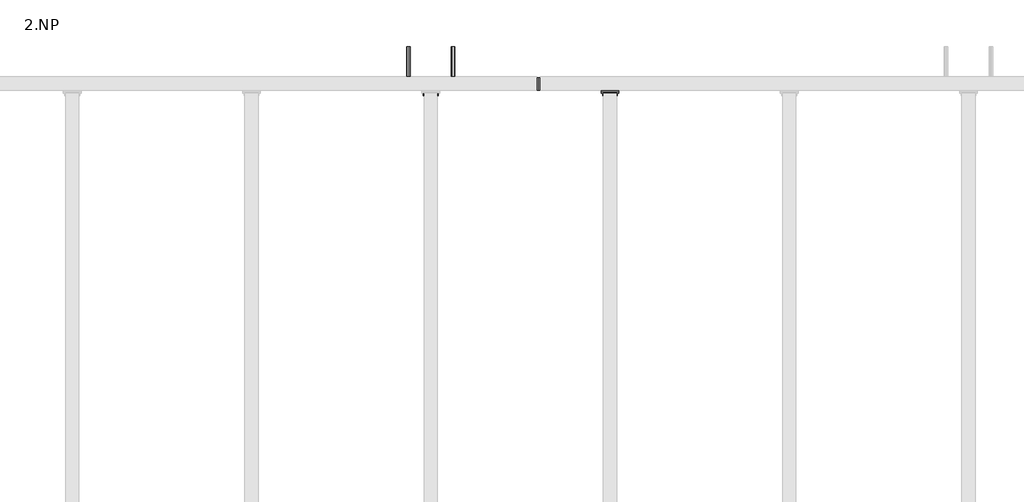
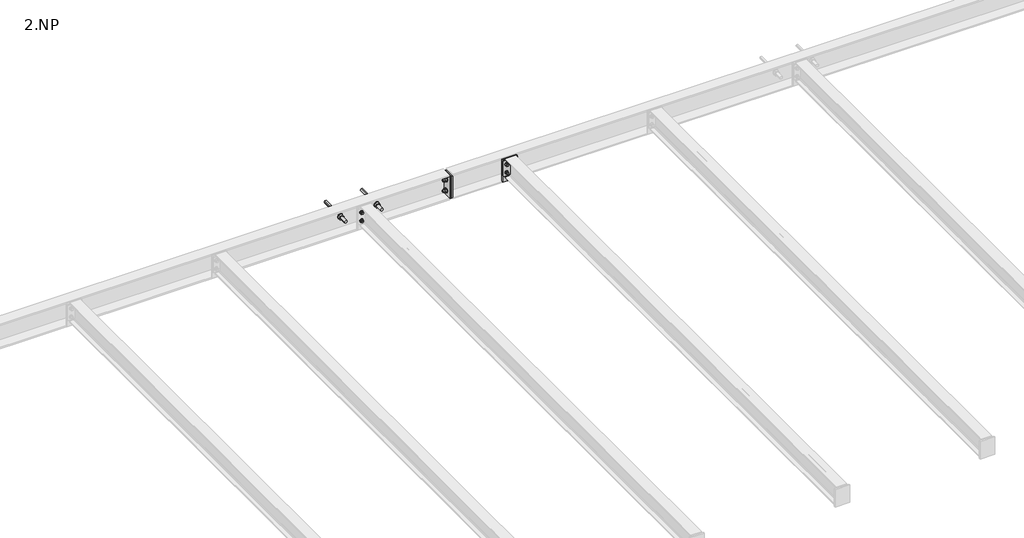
# One storey, part 11 of 18: 9 proxies.
"""IFC4 building model written with IfcOpenShell, lengths in millimetres."""

from ifc_helpers import new_model, si_unit, point, frame, frame_2d, origin, place, context, project, spatial, polyline, circle_curve, trimmed, segment, composite_curve, outline, extrude, element, save

model = new_model("IFC4")

# Units and contexts
model_context = context("Model", 3, world=origin())
ifc_project = project(units=[si_unit("LENGTHUNIT", "METRE", prefix="MILLI")], contexts=[model_context])

# Site, building, storey
site = spatial("IfcSite", under=ifc_project)
building = spatial("IfcBuilding", under=site)
storey = spatial("IfcBuildingStorey", under=building, Name="2.NP", Elevation=3000.0)

# Proxies
placement = place(None, origin())
element("IfcBuildingElementProxy", 1, Name="PLECH", ObjectType="PLECH", at=placement, inside=storey, context=model_context, shape_type="SweptSolid", body=[
    extrude(outline(polyline([(7000.0, 3775.0), (7100.0, 3775.0), (7100.0, 3767.0), (7000.0, 3767.0), (7000.0, 3775.0)])), frame((0.0, 0.0, 3175.0), z_axis=(0.0, 0.0, 1.0), x_axis=(1.0, 0.0, 0.0)), (0.0, 0.0, 1.0), 110.0),
])
element("IfcBuildingElementProxy", 2, Name="PLECH", ObjectType="PLECH", at=placement, inside=storey, context=model_context, shape_type="SweptSolid", body=[
    extrude(outline(polyline([(6650.0, 3855.0), (6650.0, 3785.0), (6640.0, 3785.0), (6640.0, 3855.0), (6650.0, 3855.0)])), frame((0.0, 0.0, 3130.5), z_axis=(0.0, 0.0, 1.0), x_axis=(1.0, 0.0, 0.0)), (0.0, 0.0, 1.0), 159.0),
])
element("IfcBuildingElementProxy", 3, Name="PLECH", ObjectType="PLECH", at=placement, inside=storey, context=model_context, shape_type="SweptSolid", body=[
    extrude(outline(polyline([(7000.0, 3785.0), (7100.0, 3785.0), (7100.0, 3775.0), (7000.0, 3775.0), (7000.0, 3785.0)])), frame((0.0, 0.0, 3128.0), z_axis=(0.0, 0.0, 1.0), x_axis=(1.0, 0.0, 0.0)), (0.0, 0.0, 1.0), 164.0),
])
element("IfcBuildingElementProxy", 4, Name="PLECH", ObjectType="PLECH", at=placement, inside=storey, context=model_context, shape_type="SweptSolid", body=[
    extrude(outline(composite_curve([segment(polyline([(3785.0, 3289.5), (3834.5, 3289.5)]), True, "CONTINUOUS"), segment(trimmed(circle_curve(frame_2d((3854.5, 3289.5)), 20.0), [point((3834.5, 3289.5))], [point((3854.5, 3269.5))], True, "CARTESIAN"), True, "CONTINUOUS"), segment(polyline([(3854.5, 3269.5), (3854.5, 3150.5)]), True, "CONTINUOUS"), segment(trimmed(circle_curve(frame_2d((3854.5, 3130.5)), 20.0), [point((3854.5, 3150.5))], [point((3834.5, 3130.5))], True, "CARTESIAN"), True, "CONTINUOUS"), segment(polyline([(3834.5, 3130.5), (3785.0, 3130.5), (3785.0, 3289.5)]), True, "CONTINUOUS")], self_intersect=False)), frame((7047.0, 0.0, 0.0), z_axis=(1.0, 0.0, 0.0), x_axis=(0.0, 1.0, 0.0)), (0.0, 0.0, 1.0), 6.0),
])
element("IfcBuildingElementProxy", 5, Name="PLECH", ObjectType="PLECH", at=placement, inside=storey, context=model_context, shape_type="SweptSolid", body=[
    extrude(outline(polyline([(6660.0, 3855.0), (6660.0, 3785.0), (6650.0, 3785.0), (6650.0, 3855.0), (6660.0, 3855.0)])), frame((0.0, 0.0, 3130.5), z_axis=(0.0, 0.0, 1.0), x_axis=(1.0, 0.0, 0.0)), (0.0, 0.0, 1.0), 159.0),
])
element("IfcBuildingElementProxy", 6, Name="Bolt assembly", ObjectType="Bolt assembly", at=placement, inside=storey, context=model_context, shape_type="SweptSolid", body=[
    extrude(outline(composite_curve([segment(trimmed(circle_curve(frame_2d((3260.0, 6020.0)), 6.5), [point((3260.0, 6026.5))], [point((3260.0, 6013.5))], False, "CARTESIAN"), True, "CONTINUOUS"), segment(trimmed(circle_curve(frame_2d((3260.0, 6020.0)), 6.5), [point((3260.0, 6013.5))], [point((3260.0, 6026.5))], False, "CARTESIAN"), True, "CONTINUOUS")], self_intersect=False)), frame((0.0, 3774.9, 0.0), z_axis=(0.0, 1.0, 0.0), x_axis=(0.0, 0.0, 1.0)), (0.0, 0.0, 1.0), 10.0),
    extrude(outline(polyline([(3260.0, 6030.9696551), (3269.5, 6025.4848276), (3269.5, 6014.5151724), (3260.0, 6009.0303449), (3250.5, 6014.5151724), (3250.5, 6025.4848276), (3260.0, 6030.9696551)])), frame((0.0, 3787.5, 0.0), z_axis=(0.0, 1.0, 0.0), x_axis=(0.0, 0.0, 1.0)), (0.0, 0.0, 1.0), 7.5),
    extrude(outline(composite_curve([segment(trimmed(circle_curve(frame_2d((3260.0, 6020.0)), 6.0), [point((3260.0, 6026.0))], [point((3260.0, 6014.0))], False, "CARTESIAN"), True, "CONTINUOUS"), segment(trimmed(circle_curve(frame_2d((3260.0, 6020.0)), 6.0), [point((3260.0, 6014.0))], [point((3260.0, 6026.0))], False, "CARTESIAN"), True, "CONTINUOUS")], self_intersect=False)), frame((0.0, 3747.5, 0.0), z_axis=(0.0, 1.0, 0.0), x_axis=(0.0, 0.0, 1.0)), (0.0, 0.0, 1.0), 40.0),
    extrude(outline(composite_curve([segment(trimmed(circle_curve(frame_2d((3260.0, 6020.0)), 12.0), [point((3260.0, 6032.0))], [point((3260.0, 6008.0))], False, "CARTESIAN"), True, "CONTINUOUS"), segment(trimmed(circle_curve(frame_2d((3260.0, 6020.0)), 12.0), [point((3260.0, 6008.0))], [point((3260.0, 6032.0))], False, "CARTESIAN"), True, "CONTINUOUS")], self_intersect=False)), frame((0.0, 3785.0, 0.0), z_axis=(0.0, 1.0, 0.0), x_axis=(0.0, 0.0, 1.0)), (0.0, 0.0, 1.0), 2.5),
    extrude(outline(composite_curve([segment(trimmed(circle_curve(frame_2d((3260.0, 6020.0)), 12.0), [point((3260.0, 6032.0))], [point((3260.0, 6008.0))], False, "CARTESIAN"), True, "CONTINUOUS"), segment(trimmed(circle_curve(frame_2d((3260.0, 6020.0)), 12.0), [point((3260.0, 6008.0))], [point((3260.0, 6032.0))], False, "CARTESIAN"), True, "CONTINUOUS")], self_intersect=False)), frame((0.0, 3764.5, 0.0), z_axis=(0.0, 1.0, 0.0), x_axis=(0.0, 0.0, 1.0)), (0.0, 0.0, 1.0), 2.5),
    extrude(outline(polyline([(3260.0, 6030.9696551), (3269.5, 6025.4848276), (3269.5, 6014.5151724), (3260.0, 6009.0303449), (3250.5, 6014.5151724), (3250.5, 6025.4848276), (3260.0, 6030.9696551)])), frame((0.0, 3754.5, 0.0), z_axis=(0.0, 1.0, 0.0), x_axis=(0.0, 0.0, 1.0)), (0.0, 0.0, 1.0), 10.0),
    extrude(outline(composite_curve([segment(trimmed(circle_curve(frame_2d((3260.0, 6020.0)), 6.5), [point((3260.0, 6026.5))], [point((3260.0, 6013.5))], False, "CARTESIAN"), True, "CONTINUOUS"), segment(trimmed(circle_curve(frame_2d((3260.0, 6020.0)), 6.5), [point((3260.0, 6013.5))], [point((3260.0, 6026.5))], False, "CARTESIAN"), True, "CONTINUOUS")], self_intersect=False)), frame((0.0, 3767.0, 0.0), z_axis=(0.0, 1.0, 0.0), x_axis=(0.0, 0.0, 1.0)), (0.0, 0.0, 1.0), 8.1),
    extrude(outline(composite_curve([segment(trimmed(circle_curve(frame_2d((3260.0, 6080.0)), 6.5), [point((3260.0, 6086.5))], [point((3260.0, 6073.5))], False, "CARTESIAN"), True, "CONTINUOUS"), segment(trimmed(circle_curve(frame_2d((3260.0, 6080.0)), 6.5), [point((3260.0, 6073.5))], [point((3260.0, 6086.5))], False, "CARTESIAN"), True, "CONTINUOUS")], self_intersect=False)), frame((0.0, 3774.9, 0.0), z_axis=(0.0, 1.0, 0.0), x_axis=(0.0, 0.0, 1.0)), (0.0, 0.0, 1.0), 10.0),
    extrude(outline(polyline([(3260.0, 6090.9696551), (3269.5, 6085.4848276), (3269.5, 6074.5151724), (3260.0, 6069.0303449), (3250.5, 6074.5151724), (3250.5, 6085.4848276), (3260.0, 6090.9696551)])), frame((0.0, 3787.5, 0.0), z_axis=(0.0, 1.0, 0.0), x_axis=(0.0, 0.0, 1.0)), (0.0, 0.0, 1.0), 7.5),
    extrude(outline(composite_curve([segment(trimmed(circle_curve(frame_2d((3260.0, 6080.0)), 6.0), [point((3260.0, 6086.0))], [point((3260.0, 6074.0))], False, "CARTESIAN"), True, "CONTINUOUS"), segment(trimmed(circle_curve(frame_2d((3260.0, 6080.0)), 6.0), [point((3260.0, 6074.0))], [point((3260.0, 6086.0))], False, "CARTESIAN"), True, "CONTINUOUS")], self_intersect=False)), frame((0.0, 3747.5, 0.0), z_axis=(0.0, 1.0, 0.0), x_axis=(0.0, 0.0, 1.0)), (0.0, 0.0, 1.0), 40.0),
    extrude(outline(composite_curve([segment(trimmed(circle_curve(frame_2d((3260.0, 6080.0)), 12.0), [point((3260.0, 6092.0))], [point((3260.0, 6068.0))], False, "CARTESIAN"), True, "CONTINUOUS"), segment(trimmed(circle_curve(frame_2d((3260.0, 6080.0)), 12.0), [point((3260.0, 6068.0))], [point((3260.0, 6092.0))], False, "CARTESIAN"), True, "CONTINUOUS")], self_intersect=False)), frame((0.0, 3785.0, 0.0), z_axis=(0.0, 1.0, 0.0), x_axis=(0.0, 0.0, 1.0)), (0.0, 0.0, 1.0), 2.5),
    extrude(outline(composite_curve([segment(trimmed(circle_curve(frame_2d((3260.0, 6080.0)), 12.0), [point((3260.0, 6092.0))], [point((3260.0, 6068.0))], False, "CARTESIAN"), True, "CONTINUOUS"), segment(trimmed(circle_curve(frame_2d((3260.0, 6080.0)), 12.0), [point((3260.0, 6068.0))], [point((3260.0, 6092.0))], False, "CARTESIAN"), True, "CONTINUOUS")], self_intersect=False)), frame((0.0, 3764.5, 0.0), z_axis=(0.0, 1.0, 0.0), x_axis=(0.0, 0.0, 1.0)), (0.0, 0.0, 1.0), 2.5),
    extrude(outline(polyline([(3260.0, 6090.9696551), (3269.5, 6085.4848276), (3269.5, 6074.5151724), (3260.0, 6069.0303449), (3250.5, 6074.5151724), (3250.5, 6085.4848276), (3260.0, 6090.9696551)])), frame((0.0, 3754.5, 0.0), z_axis=(0.0, 1.0, 0.0), x_axis=(0.0, 0.0, 1.0)), (0.0, 0.0, 1.0), 10.0),
    extrude(outline(composite_curve([segment(trimmed(circle_curve(frame_2d((3260.0, 6080.0)), 6.5), [point((3260.0, 6086.5))], [point((3260.0, 6073.5))], False, "CARTESIAN"), True, "CONTINUOUS"), segment(trimmed(circle_curve(frame_2d((3260.0, 6080.0)), 6.5), [point((3260.0, 6073.5))], [point((3260.0, 6086.5))], False, "CARTESIAN"), True, "CONTINUOUS")], self_intersect=False)), frame((0.0, 3767.0, 0.0), z_axis=(0.0, 1.0, 0.0), x_axis=(0.0, 0.0, 1.0)), (0.0, 0.0, 1.0), 8.1),
    extrude(outline(composite_curve([segment(trimmed(circle_curve(frame_2d((3200.0, 6020.0)), 6.5), [point((3200.0, 6026.5))], [point((3200.0, 6013.5))], False, "CARTESIAN"), True, "CONTINUOUS"), segment(trimmed(circle_curve(frame_2d((3200.0, 6020.0)), 6.5), [point((3200.0, 6013.5))], [point((3200.0, 6026.5))], False, "CARTESIAN"), True, "CONTINUOUS")], self_intersect=False)), frame((0.0, 3774.9, 0.0), z_axis=(0.0, 1.0, 0.0), x_axis=(0.0, 0.0, 1.0)), (0.0, 0.0, 1.0), 10.0),
    extrude(outline(polyline([(3200.0, 6030.9696551), (3209.5, 6025.4848276), (3209.5, 6014.5151724), (3200.0, 6009.0303449), (3190.5, 6014.5151724), (3190.5, 6025.4848276), (3200.0, 6030.9696551)])), frame((0.0, 3787.5, 0.0), z_axis=(0.0, 1.0, 0.0), x_axis=(0.0, 0.0, 1.0)), (0.0, 0.0, 1.0), 7.5),
    extrude(outline(composite_curve([segment(trimmed(circle_curve(frame_2d((3200.0, 6020.0)), 6.0), [point((3200.0, 6026.0))], [point((3200.0, 6014.0))], False, "CARTESIAN"), True, "CONTINUOUS"), segment(trimmed(circle_curve(frame_2d((3200.0, 6020.0)), 6.0), [point((3200.0, 6014.0))], [point((3200.0, 6026.0))], False, "CARTESIAN"), True, "CONTINUOUS")], self_intersect=False)), frame((0.0, 3747.5, 0.0), z_axis=(0.0, 1.0, 0.0), x_axis=(0.0, 0.0, 1.0)), (0.0, 0.0, 1.0), 40.0),
    extrude(outline(composite_curve([segment(trimmed(circle_curve(frame_2d((3200.0, 6020.0)), 12.0), [point((3200.0, 6032.0))], [point((3200.0, 6008.0))], False, "CARTESIAN"), True, "CONTINUOUS"), segment(trimmed(circle_curve(frame_2d((3200.0, 6020.0)), 12.0), [point((3200.0, 6008.0))], [point((3200.0, 6032.0))], False, "CARTESIAN"), True, "CONTINUOUS")], self_intersect=False)), frame((0.0, 3785.0, 0.0), z_axis=(0.0, 1.0, 0.0), x_axis=(0.0, 0.0, 1.0)), (0.0, 0.0, 1.0), 2.5),
    extrude(outline(composite_curve([segment(trimmed(circle_curve(frame_2d((3200.0, 6020.0)), 12.0), [point((3200.0, 6032.0))], [point((3200.0, 6008.0))], False, "CARTESIAN"), True, "CONTINUOUS"), segment(trimmed(circle_curve(frame_2d((3200.0, 6020.0)), 12.0), [point((3200.0, 6008.0))], [point((3200.0, 6032.0))], False, "CARTESIAN"), True, "CONTINUOUS")], self_intersect=False)), frame((0.0, 3764.5, 0.0), z_axis=(0.0, 1.0, 0.0), x_axis=(0.0, 0.0, 1.0)), (0.0, 0.0, 1.0), 2.5),
    extrude(outline(polyline([(3200.0, 6030.9696551), (3209.5, 6025.4848276), (3209.5, 6014.5151724), (3200.0, 6009.0303449), (3190.5, 6014.5151724), (3190.5, 6025.4848276), (3200.0, 6030.9696551)])), frame((0.0, 3754.5, 0.0), z_axis=(0.0, 1.0, 0.0), x_axis=(0.0, 0.0, 1.0)), (0.0, 0.0, 1.0), 10.0),
    extrude(outline(composite_curve([segment(trimmed(circle_curve(frame_2d((3200.0, 6020.0)), 6.5), [point((3200.0, 6026.5))], [point((3200.0, 6013.5))], False, "CARTESIAN"), True, "CONTINUOUS"), segment(trimmed(circle_curve(frame_2d((3200.0, 6020.0)), 6.5), [point((3200.0, 6013.5))], [point((3200.0, 6026.5))], False, "CARTESIAN"), True, "CONTINUOUS")], self_intersect=False)), frame((0.0, 3767.0, 0.0), z_axis=(0.0, 1.0, 0.0), x_axis=(0.0, 0.0, 1.0)), (0.0, 0.0, 1.0), 8.1),
    extrude(outline(composite_curve([segment(trimmed(circle_curve(frame_2d((3200.0, 6080.0)), 6.5), [point((3200.0, 6086.5))], [point((3200.0, 6073.5))], False, "CARTESIAN"), True, "CONTINUOUS"), segment(trimmed(circle_curve(frame_2d((3200.0, 6080.0)), 6.5), [point((3200.0, 6073.5))], [point((3200.0, 6086.5))], False, "CARTESIAN"), True, "CONTINUOUS")], self_intersect=False)), frame((0.0, 3774.9, 0.0), z_axis=(0.0, 1.0, 0.0), x_axis=(0.0, 0.0, 1.0)), (0.0, 0.0, 1.0), 10.0),
    extrude(outline(polyline([(3200.0, 6090.9696551), (3209.5, 6085.4848276), (3209.5, 6074.5151724), (3200.0, 6069.0303449), (3190.5, 6074.5151724), (3190.5, 6085.4848276), (3200.0, 6090.9696551)])), frame((0.0, 3787.5, 0.0), z_axis=(0.0, 1.0, 0.0), x_axis=(0.0, 0.0, 1.0)), (0.0, 0.0, 1.0), 7.5),
    extrude(outline(composite_curve([segment(trimmed(circle_curve(frame_2d((3200.0, 6080.0)), 6.0), [point((3200.0, 6086.0))], [point((3200.0, 6074.0))], False, "CARTESIAN"), True, "CONTINUOUS"), segment(trimmed(circle_curve(frame_2d((3200.0, 6080.0)), 6.0), [point((3200.0, 6074.0))], [point((3200.0, 6086.0))], False, "CARTESIAN"), True, "CONTINUOUS")], self_intersect=False)), frame((0.0, 3747.5, 0.0), z_axis=(0.0, 1.0, 0.0), x_axis=(0.0, 0.0, 1.0)), (0.0, 0.0, 1.0), 40.0),
    extrude(outline(composite_curve([segment(trimmed(circle_curve(frame_2d((3200.0, 6080.0)), 12.0), [point((3200.0, 6092.0))], [point((3200.0, 6068.0))], False, "CARTESIAN"), True, "CONTINUOUS"), segment(trimmed(circle_curve(frame_2d((3200.0, 6080.0)), 12.0), [point((3200.0, 6068.0))], [point((3200.0, 6092.0))], False, "CARTESIAN"), True, "CONTINUOUS")], self_intersect=False)), frame((0.0, 3785.0, 0.0), z_axis=(0.0, 1.0, 0.0), x_axis=(0.0, 0.0, 1.0)), (0.0, 0.0, 1.0), 2.5),
    extrude(outline(composite_curve([segment(trimmed(circle_curve(frame_2d((3200.0, 6080.0)), 12.0), [point((3200.0, 6092.0))], [point((3200.0, 6068.0))], False, "CARTESIAN"), True, "CONTINUOUS"), segment(trimmed(circle_curve(frame_2d((3200.0, 6080.0)), 12.0), [point((3200.0, 6068.0))], [point((3200.0, 6092.0))], False, "CARTESIAN"), True, "CONTINUOUS")], self_intersect=False)), frame((0.0, 3764.5, 0.0), z_axis=(0.0, 1.0, 0.0), x_axis=(0.0, 0.0, 1.0)), (0.0, 0.0, 1.0), 2.5),
    extrude(outline(polyline([(3200.0, 6090.9696551), (3209.5, 6085.4848276), (3209.5, 6074.5151724), (3200.0, 6069.0303449), (3190.5, 6074.5151724), (3190.5, 6085.4848276), (3200.0, 6090.9696551)])), frame((0.0, 3754.5, 0.0), z_axis=(0.0, 1.0, 0.0), x_axis=(0.0, 0.0, 1.0)), (0.0, 0.0, 1.0), 10.0),
    extrude(outline(composite_curve([segment(trimmed(circle_curve(frame_2d((3200.0, 6080.0)), 6.5), [point((3200.0, 6086.5))], [point((3200.0, 6073.5))], False, "CARTESIAN"), True, "CONTINUOUS"), segment(trimmed(circle_curve(frame_2d((3200.0, 6080.0)), 6.5), [point((3200.0, 6073.5))], [point((3200.0, 6086.5))], False, "CARTESIAN"), True, "CONTINUOUS")], self_intersect=False)), frame((0.0, 3767.0, 0.0), z_axis=(0.0, 1.0, 0.0), x_axis=(0.0, 0.0, 1.0)), (0.0, 0.0, 1.0), 8.1),
])
element("IfcBuildingElementProxy", 7, Name="Bolt assembly", ObjectType="Bolt assembly", at=placement, inside=storey, context=model_context, shape_type="SweptSolid", body=[
    extrude(outline(polyline([(3210.0, 5934.8149546), (3218.5, 5929.9074773), (3218.5, 5920.0925227), (3210.0, 5915.1850454), (3201.5, 5920.0925227), (3201.5, 5929.9074773), (3210.0, 5934.8149546)])), frame((0.0, 3860.0, 0.0), z_axis=(0.0, 1.0, 0.0), x_axis=(0.0, 0.0, 1.0)), (0.0, 0.0, 1.0), 168.0),
    extrude(outline(composite_curve([segment(trimmed(circle_curve(frame_2d((3210.0, 5925.0)), 10.0), [point((3210.0, 5935.0))], [point((3210.0, 5915.0))], False, "CARTESIAN"), True, "CONTINUOUS"), segment(trimmed(circle_curve(frame_2d((3210.0, 5925.0)), 10.0), [point((3210.0, 5915.0))], [point((3210.0, 5935.0))], False, "CARTESIAN"), True, "CONTINUOUS")], self_intersect=False)), frame((0.0, 3788.0, 0.0), z_axis=(0.0, 1.0, 0.0), x_axis=(0.0, 0.0, 1.0)), (0.0, 0.0, 1.0), 72.0),
    extrude(outline(composite_curve([segment(trimmed(circle_curve(frame_2d((3210.0, 5925.0)), 18.5), [point((3210.0, 5943.5))], [point((3210.0, 5906.5))], False, "CARTESIAN"), True, "CONTINUOUS"), segment(trimmed(circle_curve(frame_2d((3210.0, 5925.0)), 18.5), [point((3210.0, 5906.5))], [point((3210.0, 5943.5))], False, "CARTESIAN"), True, "CONTINUOUS")], self_intersect=False)), frame((0.0, 3851.5, 0.0), z_axis=(0.0, 1.0, 0.0), x_axis=(0.0, 0.0, 1.0)), (0.0, 0.0, 1.0), 3.0),
    extrude(outline(polyline([(3210.0, 5942.3205081), (3225.0, 5933.660254), (3225.0, 5916.339746), (3210.0, 5907.6794919), (3195.0, 5916.339746), (3195.0, 5933.660254), (3210.0, 5942.3205081)])), frame((0.0, 3835.5, 0.0), z_axis=(0.0, 1.0, 0.0), x_axis=(0.0, 0.0, 1.0)), (0.0, 0.0, 1.0), 16.0),
    extrude(outline(composite_curve([segment(trimmed(circle_curve(frame_2d((3210.0, 5925.0)), 11.0), [point((3210.0, 5936.0))], [point((3210.0, 5914.0))], False, "CARTESIAN"), True, "CONTINUOUS"), segment(trimmed(circle_curve(frame_2d((3210.0, 5925.0)), 11.0), [point((3210.0, 5914.0))], [point((3210.0, 5936.0))], False, "CARTESIAN"), True, "CONTINUOUS")], self_intersect=False)), frame((0.0, 3854.4, 0.0), z_axis=(0.0, 1.0, 0.0), x_axis=(0.0, 0.0, 1.0)), (0.0, 0.0, 1.0), 5.6),
    extrude(outline(polyline([(3210.0, 6184.8149546), (3218.5, 6179.9074773), (3218.5, 6170.0925227), (3210.0, 6165.1850454), (3201.5, 6170.0925227), (3201.5, 6179.9074773), (3210.0, 6184.8149546)])), frame((0.0, 3860.0, 0.0), z_axis=(0.0, 1.0, 0.0), x_axis=(0.0, 0.0, 1.0)), (0.0, 0.0, 1.0), 168.0),
    extrude(outline(composite_curve([segment(trimmed(circle_curve(frame_2d((3210.0, 6175.0)), 10.0), [point((3210.0, 6185.0))], [point((3210.0, 6165.0))], False, "CARTESIAN"), True, "CONTINUOUS"), segment(trimmed(circle_curve(frame_2d((3210.0, 6175.0)), 10.0), [point((3210.0, 6165.0))], [point((3210.0, 6185.0))], False, "CARTESIAN"), True, "CONTINUOUS")], self_intersect=False)), frame((0.0, 3788.0, 0.0), z_axis=(0.0, 1.0, 0.0), x_axis=(0.0, 0.0, 1.0)), (0.0, 0.0, 1.0), 72.0),
    extrude(outline(composite_curve([segment(trimmed(circle_curve(frame_2d((3210.0, 6175.0)), 18.5), [point((3210.0, 6193.5))], [point((3210.0, 6156.5))], False, "CARTESIAN"), True, "CONTINUOUS"), segment(trimmed(circle_curve(frame_2d((3210.0, 6175.0)), 18.5), [point((3210.0, 6156.5))], [point((3210.0, 6193.5))], False, "CARTESIAN"), True, "CONTINUOUS")], self_intersect=False)), frame((0.0, 3851.5, 0.0), z_axis=(0.0, 1.0, 0.0), x_axis=(0.0, 0.0, 1.0)), (0.0, 0.0, 1.0), 3.0),
    extrude(outline(polyline([(3210.0, 6192.3205081), (3225.0, 6183.660254), (3225.0, 6166.339746), (3210.0, 6157.6794919), (3195.0, 6166.339746), (3195.0, 6183.660254), (3210.0, 6192.3205081)])), frame((0.0, 3835.5, 0.0), z_axis=(0.0, 1.0, 0.0), x_axis=(0.0, 0.0, 1.0)), (0.0, 0.0, 1.0), 16.0),
    extrude(outline(composite_curve([segment(trimmed(circle_curve(frame_2d((3210.0, 6175.0)), 11.0), [point((3210.0, 6186.0))], [point((3210.0, 6164.0))], False, "CARTESIAN"), True, "CONTINUOUS"), segment(trimmed(circle_curve(frame_2d((3210.0, 6175.0)), 11.0), [point((3210.0, 6164.0))], [point((3210.0, 6186.0))], False, "CARTESIAN"), True, "CONTINUOUS")], self_intersect=False)), frame((0.0, 3854.4, 0.0), z_axis=(0.0, 1.0, 0.0), x_axis=(0.0, 0.0, 1.0)), (0.0, 0.0, 1.0), 5.6),
])
element("IfcBuildingElementProxy", 8, Name="Bolt assembly", ObjectType="Bolt assembly", at=placement, inside=storey, context=model_context, shape_type="SweptSolid", body=[
    extrude(outline(composite_curve([segment(trimmed(circle_curve(frame_2d((3260.0, 7020.0)), 6.5), [point((3260.0, 7026.5))], [point((3260.0, 7013.5))], False, "CARTESIAN"), True, "CONTINUOUS"), segment(trimmed(circle_curve(frame_2d((3260.0, 7020.0)), 6.5), [point((3260.0, 7013.5))], [point((3260.0, 7026.5))], False, "CARTESIAN"), True, "CONTINUOUS")], self_intersect=False)), frame((0.0, 3774.9, 0.0), z_axis=(0.0, 1.0, 0.0), x_axis=(0.0, 0.0, 1.0)), (0.0, 0.0, 1.0), 10.0),
    extrude(outline(polyline([(3260.0, 7030.9696551), (3269.5, 7025.4848276), (3269.5, 7014.5151724), (3260.0, 7009.0303449), (3250.5, 7014.5151724), (3250.5, 7025.4848276), (3260.0, 7030.9696551)])), frame((0.0, 3787.5, 0.0), z_axis=(0.0, 1.0, 0.0), x_axis=(0.0, 0.0, 1.0)), (0.0, 0.0, 1.0), 7.5),
    extrude(outline(composite_curve([segment(trimmed(circle_curve(frame_2d((3260.0, 7020.0)), 6.0), [point((3260.0, 7026.0))], [point((3260.0, 7014.0))], False, "CARTESIAN"), True, "CONTINUOUS"), segment(trimmed(circle_curve(frame_2d((3260.0, 7020.0)), 6.0), [point((3260.0, 7014.0))], [point((3260.0, 7026.0))], False, "CARTESIAN"), True, "CONTINUOUS")], self_intersect=False)), frame((0.0, 3747.5, 0.0), z_axis=(0.0, 1.0, 0.0), x_axis=(0.0, 0.0, 1.0)), (0.0, 0.0, 1.0), 40.0),
    extrude(outline(composite_curve([segment(trimmed(circle_curve(frame_2d((3260.0, 7020.0)), 12.0), [point((3260.0, 7032.0))], [point((3260.0, 7008.0))], False, "CARTESIAN"), True, "CONTINUOUS"), segment(trimmed(circle_curve(frame_2d((3260.0, 7020.0)), 12.0), [point((3260.0, 7008.0))], [point((3260.0, 7032.0))], False, "CARTESIAN"), True, "CONTINUOUS")], self_intersect=False)), frame((0.0, 3785.0, 0.0), z_axis=(0.0, 1.0, 0.0), x_axis=(0.0, 0.0, 1.0)), (0.0, 0.0, 1.0), 2.5),
    extrude(outline(composite_curve([segment(trimmed(circle_curve(frame_2d((3260.0, 7020.0)), 12.0), [point((3260.0, 7032.0))], [point((3260.0, 7008.0))], False, "CARTESIAN"), True, "CONTINUOUS"), segment(trimmed(circle_curve(frame_2d((3260.0, 7020.0)), 12.0), [point((3260.0, 7008.0))], [point((3260.0, 7032.0))], False, "CARTESIAN"), True, "CONTINUOUS")], self_intersect=False)), frame((0.0, 3764.5, 0.0), z_axis=(0.0, 1.0, 0.0), x_axis=(0.0, 0.0, 1.0)), (0.0, 0.0, 1.0), 2.5),
    extrude(outline(polyline([(3260.0, 7030.9696551), (3269.5, 7025.4848276), (3269.5, 7014.5151724), (3260.0, 7009.0303449), (3250.5, 7014.5151724), (3250.5, 7025.4848276), (3260.0, 7030.9696551)])), frame((0.0, 3754.5, 0.0), z_axis=(0.0, 1.0, 0.0), x_axis=(0.0, 0.0, 1.0)), (0.0, 0.0, 1.0), 10.0),
    extrude(outline(composite_curve([segment(trimmed(circle_curve(frame_2d((3260.0, 7020.0)), 6.5), [point((3260.0, 7026.5))], [point((3260.0, 7013.5))], False, "CARTESIAN"), True, "CONTINUOUS"), segment(trimmed(circle_curve(frame_2d((3260.0, 7020.0)), 6.5), [point((3260.0, 7013.5))], [point((3260.0, 7026.5))], False, "CARTESIAN"), True, "CONTINUOUS")], self_intersect=False)), frame((0.0, 3767.0, 0.0), z_axis=(0.0, 1.0, 0.0), x_axis=(0.0, 0.0, 1.0)), (0.0, 0.0, 1.0), 8.1),
    extrude(outline(composite_curve([segment(trimmed(circle_curve(frame_2d((3260.0, 7080.0)), 6.5), [point((3260.0, 7086.5))], [point((3260.0, 7073.5))], False, "CARTESIAN"), True, "CONTINUOUS"), segment(trimmed(circle_curve(frame_2d((3260.0, 7080.0)), 6.5), [point((3260.0, 7073.5))], [point((3260.0, 7086.5))], False, "CARTESIAN"), True, "CONTINUOUS")], self_intersect=False)), frame((0.0, 3774.9, 0.0), z_axis=(0.0, 1.0, 0.0), x_axis=(0.0, 0.0, 1.0)), (0.0, 0.0, 1.0), 10.0),
    extrude(outline(polyline([(3260.0, 7090.9696551), (3269.5, 7085.4848276), (3269.5, 7074.5151724), (3260.0, 7069.0303449), (3250.5, 7074.5151724), (3250.5, 7085.4848276), (3260.0, 7090.9696551)])), frame((0.0, 3787.5, 0.0), z_axis=(0.0, 1.0, 0.0), x_axis=(0.0, 0.0, 1.0)), (0.0, 0.0, 1.0), 7.5),
    extrude(outline(composite_curve([segment(trimmed(circle_curve(frame_2d((3260.0, 7080.0)), 6.0), [point((3260.0, 7086.0))], [point((3260.0, 7074.0))], False, "CARTESIAN"), True, "CONTINUOUS"), segment(trimmed(circle_curve(frame_2d((3260.0, 7080.0)), 6.0), [point((3260.0, 7074.0))], [point((3260.0, 7086.0))], False, "CARTESIAN"), True, "CONTINUOUS")], self_intersect=False)), frame((0.0, 3747.5, 0.0), z_axis=(0.0, 1.0, 0.0), x_axis=(0.0, 0.0, 1.0)), (0.0, 0.0, 1.0), 40.0),
    extrude(outline(composite_curve([segment(trimmed(circle_curve(frame_2d((3260.0, 7080.0)), 12.0), [point((3260.0, 7092.0))], [point((3260.0, 7068.0))], False, "CARTESIAN"), True, "CONTINUOUS"), segment(trimmed(circle_curve(frame_2d((3260.0, 7080.0)), 12.0), [point((3260.0, 7068.0))], [point((3260.0, 7092.0))], False, "CARTESIAN"), True, "CONTINUOUS")], self_intersect=False)), frame((0.0, 3785.0, 0.0), z_axis=(0.0, 1.0, 0.0), x_axis=(0.0, 0.0, 1.0)), (0.0, 0.0, 1.0), 2.5),
    extrude(outline(composite_curve([segment(trimmed(circle_curve(frame_2d((3260.0, 7080.0)), 12.0), [point((3260.0, 7092.0))], [point((3260.0, 7068.0))], False, "CARTESIAN"), True, "CONTINUOUS"), segment(trimmed(circle_curve(frame_2d((3260.0, 7080.0)), 12.0), [point((3260.0, 7068.0))], [point((3260.0, 7092.0))], False, "CARTESIAN"), True, "CONTINUOUS")], self_intersect=False)), frame((0.0, 3764.5, 0.0), z_axis=(0.0, 1.0, 0.0), x_axis=(0.0, 0.0, 1.0)), (0.0, 0.0, 1.0), 2.5),
    extrude(outline(polyline([(3260.0, 7090.9696551), (3269.5, 7085.4848276), (3269.5, 7074.5151724), (3260.0, 7069.0303449), (3250.5, 7074.5151724), (3250.5, 7085.4848276), (3260.0, 7090.9696551)])), frame((0.0, 3754.5, 0.0), z_axis=(0.0, 1.0, 0.0), x_axis=(0.0, 0.0, 1.0)), (0.0, 0.0, 1.0), 10.0),
    extrude(outline(composite_curve([segment(trimmed(circle_curve(frame_2d((3260.0, 7080.0)), 6.5), [point((3260.0, 7086.5))], [point((3260.0, 7073.5))], False, "CARTESIAN"), True, "CONTINUOUS"), segment(trimmed(circle_curve(frame_2d((3260.0, 7080.0)), 6.5), [point((3260.0, 7073.5))], [point((3260.0, 7086.5))], False, "CARTESIAN"), True, "CONTINUOUS")], self_intersect=False)), frame((0.0, 3767.0, 0.0), z_axis=(0.0, 1.0, 0.0), x_axis=(0.0, 0.0, 1.0)), (0.0, 0.0, 1.0), 8.1),
    extrude(outline(composite_curve([segment(trimmed(circle_curve(frame_2d((3200.0, 7020.0)), 6.5), [point((3200.0, 7026.5))], [point((3200.0, 7013.5))], False, "CARTESIAN"), True, "CONTINUOUS"), segment(trimmed(circle_curve(frame_2d((3200.0, 7020.0)), 6.5), [point((3200.0, 7013.5))], [point((3200.0, 7026.5))], False, "CARTESIAN"), True, "CONTINUOUS")], self_intersect=False)), frame((0.0, 3774.9, 0.0), z_axis=(0.0, 1.0, 0.0), x_axis=(0.0, 0.0, 1.0)), (0.0, 0.0, 1.0), 10.0),
    extrude(outline(polyline([(3200.0, 7030.9696551), (3209.5, 7025.4848276), (3209.5, 7014.5151724), (3200.0, 7009.0303449), (3190.5, 7014.5151724), (3190.5, 7025.4848276), (3200.0, 7030.9696551)])), frame((0.0, 3787.5, 0.0), z_axis=(0.0, 1.0, 0.0), x_axis=(0.0, 0.0, 1.0)), (0.0, 0.0, 1.0), 7.5),
    extrude(outline(composite_curve([segment(trimmed(circle_curve(frame_2d((3200.0, 7020.0)), 6.0), [point((3200.0, 7026.0))], [point((3200.0, 7014.0))], False, "CARTESIAN"), True, "CONTINUOUS"), segment(trimmed(circle_curve(frame_2d((3200.0, 7020.0)), 6.0), [point((3200.0, 7014.0))], [point((3200.0, 7026.0))], False, "CARTESIAN"), True, "CONTINUOUS")], self_intersect=False)), frame((0.0, 3747.5, 0.0), z_axis=(0.0, 1.0, 0.0), x_axis=(0.0, 0.0, 1.0)), (0.0, 0.0, 1.0), 40.0),
    extrude(outline(composite_curve([segment(trimmed(circle_curve(frame_2d((3200.0, 7020.0)), 12.0), [point((3200.0, 7032.0))], [point((3200.0, 7008.0))], False, "CARTESIAN"), True, "CONTINUOUS"), segment(trimmed(circle_curve(frame_2d((3200.0, 7020.0)), 12.0), [point((3200.0, 7008.0))], [point((3200.0, 7032.0))], False, "CARTESIAN"), True, "CONTINUOUS")], self_intersect=False)), frame((0.0, 3785.0, 0.0), z_axis=(0.0, 1.0, 0.0), x_axis=(0.0, 0.0, 1.0)), (0.0, 0.0, 1.0), 2.5),
    extrude(outline(composite_curve([segment(trimmed(circle_curve(frame_2d((3200.0, 7020.0)), 12.0), [point((3200.0, 7032.0))], [point((3200.0, 7008.0))], False, "CARTESIAN"), True, "CONTINUOUS"), segment(trimmed(circle_curve(frame_2d((3200.0, 7020.0)), 12.0), [point((3200.0, 7008.0))], [point((3200.0, 7032.0))], False, "CARTESIAN"), True, "CONTINUOUS")], self_intersect=False)), frame((0.0, 3764.5, 0.0), z_axis=(0.0, 1.0, 0.0), x_axis=(0.0, 0.0, 1.0)), (0.0, 0.0, 1.0), 2.5),
    extrude(outline(polyline([(3200.0, 7030.9696551), (3209.5, 7025.4848276), (3209.5, 7014.5151724), (3200.0, 7009.0303449), (3190.5, 7014.5151724), (3190.5, 7025.4848276), (3200.0, 7030.9696551)])), frame((0.0, 3754.5, 0.0), z_axis=(0.0, 1.0, 0.0), x_axis=(0.0, 0.0, 1.0)), (0.0, 0.0, 1.0), 10.0),
    extrude(outline(composite_curve([segment(trimmed(circle_curve(frame_2d((3200.0, 7020.0)), 6.5), [point((3200.0, 7026.5))], [point((3200.0, 7013.5))], False, "CARTESIAN"), True, "CONTINUOUS"), segment(trimmed(circle_curve(frame_2d((3200.0, 7020.0)), 6.5), [point((3200.0, 7013.5))], [point((3200.0, 7026.5))], False, "CARTESIAN"), True, "CONTINUOUS")], self_intersect=False)), frame((0.0, 3767.0, 0.0), z_axis=(0.0, 1.0, 0.0), x_axis=(0.0, 0.0, 1.0)), (0.0, 0.0, 1.0), 8.1),
    extrude(outline(composite_curve([segment(trimmed(circle_curve(frame_2d((3200.0, 7080.0)), 6.5), [point((3200.0, 7086.5))], [point((3200.0, 7073.5))], False, "CARTESIAN"), True, "CONTINUOUS"), segment(trimmed(circle_curve(frame_2d((3200.0, 7080.0)), 6.5), [point((3200.0, 7073.5))], [point((3200.0, 7086.5))], False, "CARTESIAN"), True, "CONTINUOUS")], self_intersect=False)), frame((0.0, 3774.9, 0.0), z_axis=(0.0, 1.0, 0.0), x_axis=(0.0, 0.0, 1.0)), (0.0, 0.0, 1.0), 10.0),
    extrude(outline(polyline([(3200.0, 7090.9696551), (3209.5, 7085.4848276), (3209.5, 7074.5151724), (3200.0, 7069.0303449), (3190.5, 7074.5151724), (3190.5, 7085.4848276), (3200.0, 7090.9696551)])), frame((0.0, 3787.5, 0.0), z_axis=(0.0, 1.0, 0.0), x_axis=(0.0, 0.0, 1.0)), (0.0, 0.0, 1.0), 7.5),
    extrude(outline(composite_curve([segment(trimmed(circle_curve(frame_2d((3200.0, 7080.0)), 6.0), [point((3200.0, 7086.0))], [point((3200.0, 7074.0))], False, "CARTESIAN"), True, "CONTINUOUS"), segment(trimmed(circle_curve(frame_2d((3200.0, 7080.0)), 6.0), [point((3200.0, 7074.0))], [point((3200.0, 7086.0))], False, "CARTESIAN"), True, "CONTINUOUS")], self_intersect=False)), frame((0.0, 3747.5, 0.0), z_axis=(0.0, 1.0, 0.0), x_axis=(0.0, 0.0, 1.0)), (0.0, 0.0, 1.0), 40.0),
    extrude(outline(composite_curve([segment(trimmed(circle_curve(frame_2d((3200.0, 7080.0)), 12.0), [point((3200.0, 7092.0))], [point((3200.0, 7068.0))], False, "CARTESIAN"), True, "CONTINUOUS"), segment(trimmed(circle_curve(frame_2d((3200.0, 7080.0)), 12.0), [point((3200.0, 7068.0))], [point((3200.0, 7092.0))], False, "CARTESIAN"), True, "CONTINUOUS")], self_intersect=False)), frame((0.0, 3785.0, 0.0), z_axis=(0.0, 1.0, 0.0), x_axis=(0.0, 0.0, 1.0)), (0.0, 0.0, 1.0), 2.5),
    extrude(outline(composite_curve([segment(trimmed(circle_curve(frame_2d((3200.0, 7080.0)), 12.0), [point((3200.0, 7092.0))], [point((3200.0, 7068.0))], False, "CARTESIAN"), True, "CONTINUOUS"), segment(trimmed(circle_curve(frame_2d((3200.0, 7080.0)), 12.0), [point((3200.0, 7068.0))], [point((3200.0, 7092.0))], False, "CARTESIAN"), True, "CONTINUOUS")], self_intersect=False)), frame((0.0, 3764.5, 0.0), z_axis=(0.0, 1.0, 0.0), x_axis=(0.0, 0.0, 1.0)), (0.0, 0.0, 1.0), 2.5),
    extrude(outline(polyline([(3200.0, 7090.9696551), (3209.5, 7085.4848276), (3209.5, 7074.5151724), (3200.0, 7069.0303449), (3190.5, 7074.5151724), (3190.5, 7085.4848276), (3200.0, 7090.9696551)])), frame((0.0, 3754.5, 0.0), z_axis=(0.0, 1.0, 0.0), x_axis=(0.0, 0.0, 1.0)), (0.0, 0.0, 1.0), 10.0),
    extrude(outline(composite_curve([segment(trimmed(circle_curve(frame_2d((3200.0, 7080.0)), 6.5), [point((3200.0, 7086.5))], [point((3200.0, 7073.5))], False, "CARTESIAN"), True, "CONTINUOUS"), segment(trimmed(circle_curve(frame_2d((3200.0, 7080.0)), 6.5), [point((3200.0, 7073.5))], [point((3200.0, 7086.5))], False, "CARTESIAN"), True, "CONTINUOUS")], self_intersect=False)), frame((0.0, 3767.0, 0.0), z_axis=(0.0, 1.0, 0.0), x_axis=(0.0, 0.0, 1.0)), (0.0, 0.0, 1.0), 8.1),
])
element("IfcBuildingElementProxy", 9, Name="Bolt assembly", ObjectType="Bolt assembly", at=placement, inside=storey, context=model_context, shape_type="SweptSolid", body=[
    extrude(outline(composite_curve([segment(trimmed(circle_curve(frame_2d((3820.5, 3170.0)), 9.0), [point((3829.5, 3170.0))], [point((3811.5, 3170.0))], False, "CARTESIAN"), True, "CONTINUOUS"), segment(trimmed(circle_curve(frame_2d((3820.5, 3170.0)), 9.0), [point((3811.5, 3170.0))], [point((3829.5, 3170.0))], False, "CARTESIAN"), True, "CONTINUOUS")], self_intersect=False)), frame((6649.9, 0.0, 0.0), z_axis=(1.0, 0.0, 0.0), x_axis=(0.0, 1.0, 0.0)), (0.0, 0.0, 1.0), 10.0),
    extrude(outline(polyline([(3834.3564065, 3170.0), (3827.4282032, 3158.0), (3813.5717968, 3158.0), (3806.6435935, 3170.0), (3813.5717968, 3182.0), (3827.4282032, 3182.0), (3834.3564065, 3170.0)])), frame((6663.0, 0.0, 0.0), z_axis=(1.0, 0.0, 0.0), x_axis=(0.0, 1.0, 0.0)), (0.0, 0.0, 1.0), 10.0),
    extrude(outline(composite_curve([segment(trimmed(circle_curve(frame_2d((3820.5, 3170.0)), 8.0), [point((3828.5, 3170.0))], [point((3812.5, 3170.0))], False, "CARTESIAN"), True, "CONTINUOUS"), segment(trimmed(circle_curve(frame_2d((3820.5, 3170.0)), 8.0), [point((3812.5, 3170.0))], [point((3828.5, 3170.0))], False, "CARTESIAN"), True, "CONTINUOUS")], self_intersect=False)), frame((6613.0, 0.0, 0.0), z_axis=(1.0, 0.0, 0.0), x_axis=(0.0, 1.0, 0.0)), (0.0, 0.0, 1.0), 50.0),
    extrude(outline(composite_curve([segment(trimmed(circle_curve(frame_2d((3820.5, 3170.0)), 15.0), [point((3835.5, 3170.0))], [point((3805.5, 3170.0))], False, "CARTESIAN"), True, "CONTINUOUS"), segment(trimmed(circle_curve(frame_2d((3820.5, 3170.0)), 15.0), [point((3805.5, 3170.0))], [point((3835.5, 3170.0))], False, "CARTESIAN"), True, "CONTINUOUS")], self_intersect=False)), frame((6660.0, 0.0, 0.0), z_axis=(1.0, 0.0, 0.0), x_axis=(0.0, 1.0, 0.0)), (0.0, 0.0, 1.0), 3.0),
    extrude(outline(composite_curve([segment(trimmed(circle_curve(frame_2d((3820.5, 3170.0)), 15.0), [point((3835.5, 3170.0))], [point((3805.5, 3170.0))], False, "CARTESIAN"), True, "CONTINUOUS"), segment(trimmed(circle_curve(frame_2d((3820.5, 3170.0)), 15.0), [point((3805.5, 3170.0))], [point((3835.5, 3170.0))], False, "CARTESIAN"), True, "CONTINUOUS")], self_intersect=False)), frame((6637.0, 0.0, 0.0), z_axis=(1.0, 0.0, 0.0), x_axis=(0.0, 1.0, 0.0)), (0.0, 0.0, 1.0), 3.0),
    extrude(outline(polyline([(3835.9441197, 3170.0), (3828.2220599, 3156.625), (3812.7779401, 3156.625), (3805.0558803, 3170.0), (3812.7779401, 3183.375), (3828.2220599, 3183.375), (3835.9441197, 3170.0)])), frame((6624.0, 0.0, 0.0), z_axis=(1.0, 0.0, 0.0), x_axis=(0.0, 1.0, 0.0)), (0.0, 0.0, 1.0), 13.0),
    extrude(outline(composite_curve([segment(trimmed(circle_curve(frame_2d((3820.5, 3170.0)), 9.0), [point((3829.5, 3170.0))], [point((3811.5, 3170.0))], False, "CARTESIAN"), True, "CONTINUOUS"), segment(trimmed(circle_curve(frame_2d((3820.5, 3170.0)), 9.0), [point((3811.5, 3170.0))], [point((3829.5, 3170.0))], False, "CARTESIAN"), True, "CONTINUOUS")], self_intersect=False)), frame((6640.0, 0.0, 0.0), z_axis=(1.0, 0.0, 0.0), x_axis=(0.0, 1.0, 0.0)), (0.0, 0.0, 1.0), 10.1),
    extrude(outline(composite_curve([segment(trimmed(circle_curve(frame_2d((3820.5, 3250.0)), 9.0), [point((3829.5, 3250.0))], [point((3811.5, 3250.0))], False, "CARTESIAN"), True, "CONTINUOUS"), segment(trimmed(circle_curve(frame_2d((3820.5, 3250.0)), 9.0), [point((3811.5, 3250.0))], [point((3829.5, 3250.0))], False, "CARTESIAN"), True, "CONTINUOUS")], self_intersect=False)), frame((6649.9, 0.0, 0.0), z_axis=(1.0, 0.0, 0.0), x_axis=(0.0, 1.0, 0.0)), (0.0, 0.0, 1.0), 10.0),
    extrude(outline(polyline([(3834.3564065, 3250.0), (3827.4282032, 3238.0), (3813.5717968, 3238.0), (3806.6435935, 3250.0), (3813.5717968, 3262.0), (3827.4282032, 3262.0), (3834.3564065, 3250.0)])), frame((6663.0, 0.0, 0.0), z_axis=(1.0, 0.0, 0.0), x_axis=(0.0, 1.0, 0.0)), (0.0, 0.0, 1.0), 10.0),
    extrude(outline(composite_curve([segment(trimmed(circle_curve(frame_2d((3820.5, 3250.0)), 8.0), [point((3828.5, 3250.0))], [point((3812.5, 3250.0))], False, "CARTESIAN"), True, "CONTINUOUS"), segment(trimmed(circle_curve(frame_2d((3820.5, 3250.0)), 8.0), [point((3812.5, 3250.0))], [point((3828.5, 3250.0))], False, "CARTESIAN"), True, "CONTINUOUS")], self_intersect=False)), frame((6613.0, 0.0, 0.0), z_axis=(1.0, 0.0, 0.0), x_axis=(0.0, 1.0, 0.0)), (0.0, 0.0, 1.0), 50.0),
    extrude(outline(composite_curve([segment(trimmed(circle_curve(frame_2d((3820.5, 3250.0)), 15.0), [point((3835.5, 3250.0))], [point((3805.5, 3250.0))], False, "CARTESIAN"), True, "CONTINUOUS"), segment(trimmed(circle_curve(frame_2d((3820.5, 3250.0)), 15.0), [point((3805.5, 3250.0))], [point((3835.5, 3250.0))], False, "CARTESIAN"), True, "CONTINUOUS")], self_intersect=False)), frame((6660.0, 0.0, 0.0), z_axis=(1.0, 0.0, 0.0), x_axis=(0.0, 1.0, 0.0)), (0.0, 0.0, 1.0), 3.0),
    extrude(outline(composite_curve([segment(trimmed(circle_curve(frame_2d((3820.5, 3250.0)), 15.0), [point((3835.5, 3250.0))], [point((3805.5, 3250.0))], False, "CARTESIAN"), True, "CONTINUOUS"), segment(trimmed(circle_curve(frame_2d((3820.5, 3250.0)), 15.0), [point((3805.5, 3250.0))], [point((3835.5, 3250.0))], False, "CARTESIAN"), True, "CONTINUOUS")], self_intersect=False)), frame((6637.0, 0.0, 0.0), z_axis=(1.0, 0.0, 0.0), x_axis=(0.0, 1.0, 0.0)), (0.0, 0.0, 1.0), 3.0),
    extrude(outline(polyline([(3835.9441197, 3250.0), (3828.2220599, 3236.625), (3812.7779401, 3236.625), (3805.0558803, 3250.0), (3812.7779401, 3263.375), (3828.2220599, 3263.375), (3835.9441197, 3250.0)])), frame((6624.0, 0.0, 0.0), z_axis=(1.0, 0.0, 0.0), x_axis=(0.0, 1.0, 0.0)), (0.0, 0.0, 1.0), 13.0),
    extrude(outline(composite_curve([segment(trimmed(circle_curve(frame_2d((3820.5, 3250.0)), 9.0), [point((3829.5, 3250.0))], [point((3811.5, 3250.0))], False, "CARTESIAN"), True, "CONTINUOUS"), segment(trimmed(circle_curve(frame_2d((3820.5, 3250.0)), 9.0), [point((3811.5, 3250.0))], [point((3829.5, 3250.0))], False, "CARTESIAN"), True, "CONTINUOUS")], self_intersect=False)), frame((6640.0, 0.0, 0.0), z_axis=(1.0, 0.0, 0.0), x_axis=(0.0, 1.0, 0.0)), (0.0, 0.0, 1.0), 10.1),
])

save(model, "model.ifc")
